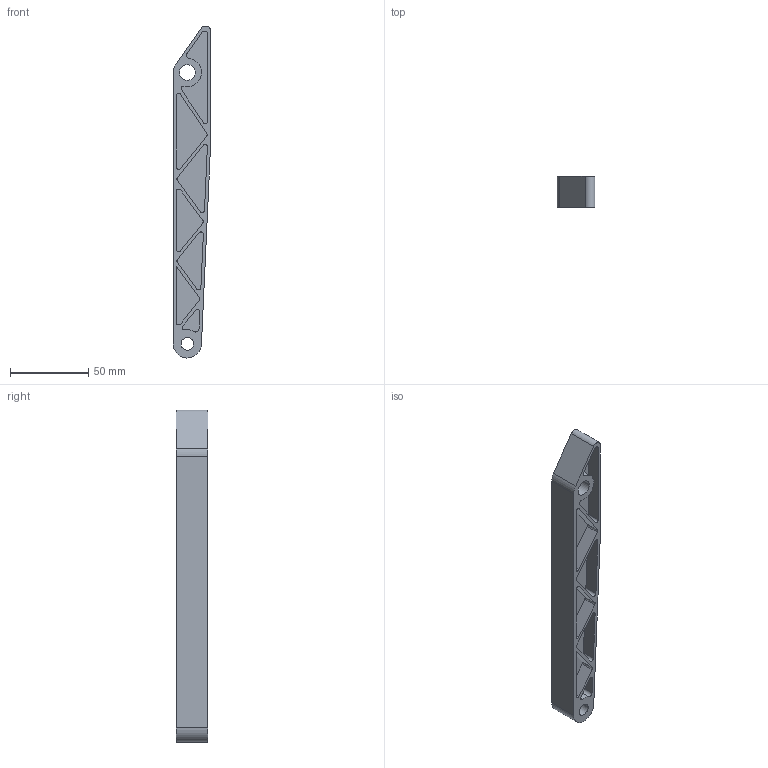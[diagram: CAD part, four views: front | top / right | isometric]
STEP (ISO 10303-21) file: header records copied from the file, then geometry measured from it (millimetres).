
FILE_DESCRIPTION(('CATIA V5 STEP Exchange'),'2;1');
FILE_NAME('C:\Users\Hashaam\Documents\CAD_Project\review\Pedal_Body_live.stp','2026-10-06T14:44:23+00:00',('none'),('none'),'CATIA Version 5 Release 21 GA (IN-10)','CATIA V5 STEP AP203','none');
FILE_SCHEMA(('CONFIG_CONTROL_DESIGN'));
Length unit declared in the file: millimetre
Products named in the file (1): Part15
Bounding box: 24 x 20 x 211.57 mm (x, y, z)
Volume: 36895.6 mm3; surface area: 30320.7 mm2
Topology: 1 solids, 1 shells, 115 faces, 297 edges, 198 vertices
Faces by surface type: plane 60, cylinder 55
Entity records: 3171 total; most frequent: ORIENTED_EDGE 594, CARTESIAN_POINT 549, DIRECTION 403, EDGE_CURVE 297, VERTEX_POINT 198, VECTOR 187, LINE 187, AXIS2_PLACEMENT_3D 164
